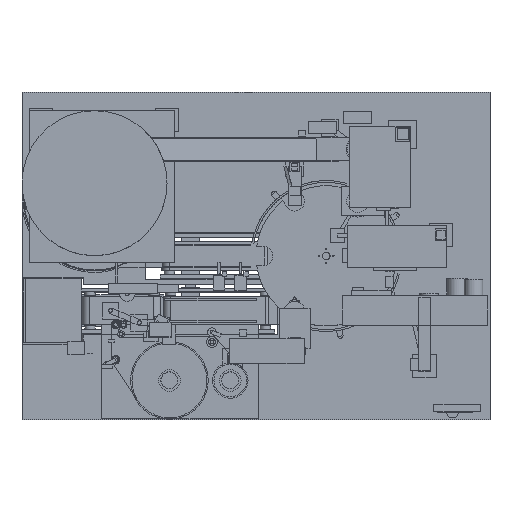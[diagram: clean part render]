
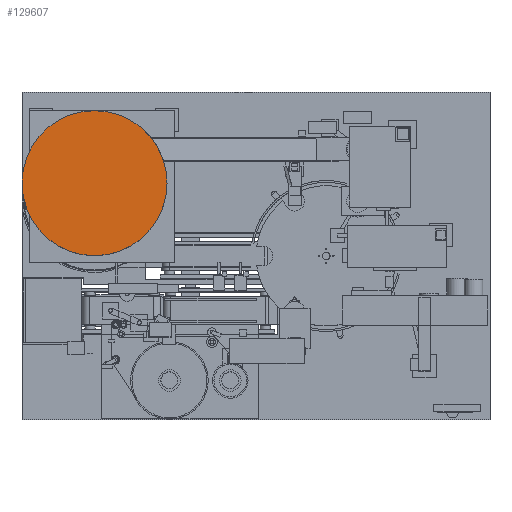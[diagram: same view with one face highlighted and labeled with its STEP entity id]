
A CAD part, top view. The second image highlights one B-rep face of the part: STEP entity #129607.
In plain terms, the highlighted planar face has unit normal (0, 0, 1).
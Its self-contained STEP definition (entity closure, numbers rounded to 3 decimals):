
#129523 = EDGE_CURVE('',#129524,#129524,#129526,.T.);
#129524 = VERTEX_POINT('',#129525);
#129525 = CARTESIAN_POINT('',(-340.,155.,327.));
#129526 = SURFACE_CURVE('',#129527,(#129532,#129544),.PCURVE_S1.);
#129527 = CIRCLE('',#129528,155.);
#129528 = AXIS2_PLACEMENT_3D('',#129529,#129530,#129531);
#129529 = CARTESIAN_POINT('',(-495.,155.,327.));
#129530 = DIRECTION('',(0.,0.,1.));
#129531 = DIRECTION('',(1.,0.,-0.));
#129532 = PCURVE('',#129533,#129538);
#129533 = CYLINDRICAL_SURFACE('',#129534,155.);
#129534 = AXIS2_PLACEMENT_3D('',#129535,#129536,#129537);
#129535 = CARTESIAN_POINT('',(-495.,155.,324.));
#129536 = DIRECTION('',(0.,0.,1.));
#129537 = DIRECTION('',(1.,0.,-0.));
#129538 = DEFINITIONAL_REPRESENTATION('',(#129539),#129543);
#129539 = LINE('',#129540,#129541);
#129540 = CARTESIAN_POINT('',(0.,3.));
#129541 = VECTOR('',#129542,1.);
#129542 = DIRECTION('',(1.,0.));
#129543 = ( GEOMETRIC_REPRESENTATION_CONTEXT(2) 
PARAMETRIC_REPRESENTATION_CONTEXT() REPRESENTATION_CONTEXT('2D SPACE',''
  ) );
#129544 = PCURVE('',#129545,#129550);
#129545 = PLANE('',#129546);
#129546 = AXIS2_PLACEMENT_3D('',#129547,#129548,#129549);
#129547 = CARTESIAN_POINT('',(-495.,155.,327.));
#129548 = DIRECTION('',(0.,0.,1.));
#129549 = DIRECTION('',(1.,0.,-0.));
#129550 = DEFINITIONAL_REPRESENTATION('',(#129551),#129555);
#129551 = CIRCLE('',#129552,155.);
#129552 = AXIS2_PLACEMENT_2D('',#129553,#129554);
#129553 = CARTESIAN_POINT('',(0.,0.));
#129554 = DIRECTION('',(1.,0.));
#129555 = ( GEOMETRIC_REPRESENTATION_CONTEXT(2) 
PARAMETRIC_REPRESENTATION_CONTEXT() REPRESENTATION_CONTEXT('2D SPACE',''
  ) );
#129607 = ADVANCED_FACE('',(#129608),#129545,.T.);
#129608 = FACE_BOUND('',#129609,.T.);
#129609 = EDGE_LOOP('',(#129610));
#129610 = ORIENTED_EDGE('',*,*,#129523,.T.);
